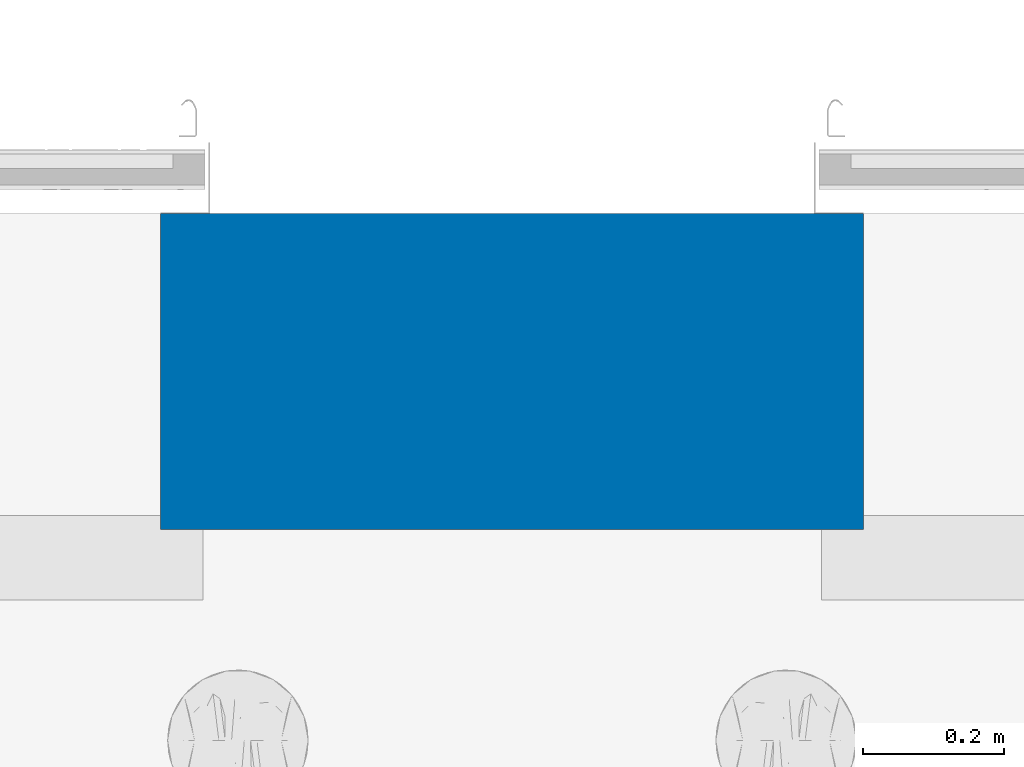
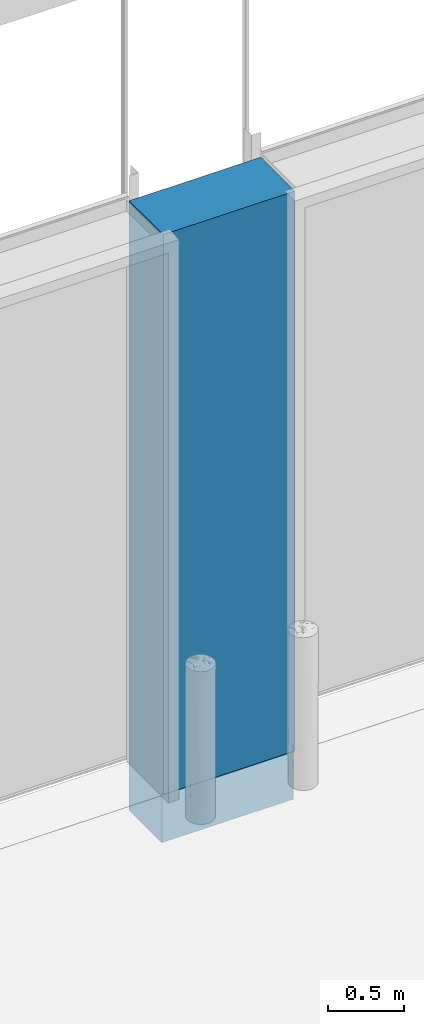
# One storey, part 54 of 77: 1 wall, 1 opening.
"""IFC2X3 building model written with IfcOpenShell, lengths in millimetres."""

import ifcopenshell
import ifcopenshell.guid

model = None  # the IFC model being written
_history = None  # IfcOwnerHistory: only IFC2X3 demands one
_inside = {}  # id of a spatial element -> (the spatial element, [elements in it])
_under = {}  # id of a project, library or spatial element -> (it, [spatial elements below it])
_declared = {}  # id of a project -> (the project, [libraries it declares])
_typed = {}  # id of a type object -> (the type object, [elements of that type])
_made_of = {}  # id of a material, layer set ... -> (it, [elements and type objects made of it])


def new_model(schema):
    """Start an empty IFC model of exactly this schema.

    Asked for "IFC4X3", IfcOpenShell would pick the latest addendum, in which some entities
    have other attributes; the version numbers below select the first issue.
    IFC2X3 requires an IfcOwnerHistory on every rooted entity: one is made here for all.
    """
    global model, _history
    if schema == "IFC4X3":
        model = ifcopenshell.file(schema_version=(4, 3, 0, 0))
    else:
        model = ifcopenshell.file(schema=schema)
    _inside.clear()
    _under.clear()
    _declared.clear()
    _typed.clear()
    _made_of.clear()
    _history = None
    if model.schema == "IFC2X3":
        org = make("IfcOrganization", Name="unknown")
        user = make(
            "IfcPersonAndOrganization",
            ThePerson=make("IfcPerson", FamilyName="unknown"),
            TheOrganization=org,
        )
        app = make(
            "IfcApplication",
            ApplicationDeveloper=org,
            Version="unknown",
            ApplicationFullName="unknown",
            ApplicationIdentifier="unknown",
        )
        _history = make(
            "IfcOwnerHistory",
            OwningUser=user,
            OwningApplication=app,
            ChangeAction="ADDED",
            CreationDate=0,
        )
    return model


def make(cls, **values):
    """One entity of the class cls with the attributes given. An attribute that is None is left unset."""
    return model.create_entity(
        cls, **{name: value for name, value in values.items() if value is not None}
    )


def entity(cls, *values):
    """Any entity or typed value of the class cls, its attributes in the order of the schema. None: left unset."""
    e = model.create_entity(cls)
    for i, value in enumerate(values):
        if value is not None:
            e[i] = value
    return e


def rooted(cls, **values):
    """An entity with a GlobalId (a new one), such as an element, a storey or a relation."""
    return make(cls, GlobalId=ifcopenshell.guid.new(), OwnerHistory=_history, **values)


def si_unit(unit_type, name, prefix=None):
    """IfcSIUnit, for example si_unit("LENGTHUNIT", "METRE", prefix="MILLI")."""
    return make("IfcSIUnit", UnitType=unit_type, Prefix=prefix, Name=name)


def converted_unit(unit_type, name, factor, base, dimensions=None, offset=None):
    """IfcConversionBasedUnit, such as the inch: factor (a typed value) times the base unit."""
    return make(
        "IfcConversionBasedUnit"
        if offset is None
        else "IfcConversionBasedUnitWithOffset",
        ConversionOffset=offset,
        Dimensions=None
        if dimensions is None
        else entity("IfcDimensionalExponents", *dimensions),
        UnitType=unit_type,
        Name=name,
        ConversionFactor=make(
            "IfcMeasureWithUnit", ValueComponent=factor, UnitComponent=base
        ),
    )


def derived_unit(unit_type, elements):
    """IfcDerivedUnit: a product of units, each with its exponent."""
    return make(
        "IfcDerivedUnit",
        Elements=[
            make("IfcDerivedUnitElement", Unit=unit, Exponent=power)
            for unit, power in elements
        ],
        UnitType=unit_type,
    )


def assignment(units):
    """IfcUnitAssignment: the units of a project."""
    return None if units is None else make("IfcUnitAssignment", Units=units)


def point(xyz):
    """IfcCartesianPoint."""
    return None if xyz is None else make("IfcCartesianPoint", Coordinates=xyz)


def direction(xyz):
    """IfcDirection."""
    return None if xyz is None else make("IfcDirection", DirectionRatios=xyz)


def frame(location, z_axis=None, x_axis=None):
    """IfcAxis2Placement3D, a coordinate frame: its origin and axes. An axis left out is left unset."""
    return make(
        "IfcAxis2Placement3D",
        Location=point(location),
        Axis=direction(z_axis),
        RefDirection=direction(x_axis),
    )


def frame_2d(location, x_axis=None):
    """IfcAxis2Placement2D, a coordinate frame in the plane: its origin and x axis."""
    return make(
        "IfcAxis2Placement2D", Location=point(location), RefDirection=direction(x_axis)
    )


def origin():
    """The frame at (0, 0, 0) with its axes left unset."""
    return frame((0.0, 0.0, 0.0))


def place(relative_to, where):
    """IfcLocalPlacement: puts the frame where relative to a parent placement (None: the world)."""
    return make(
        "IfcLocalPlacement", PlacementRelTo=relative_to, RelativePlacement=where
    )


def context(
    kind, dimensions, precision=None, world=None, true_north=None, identifier=None
):
    """IfcGeometricRepresentationContext, for example the 3D "Model" context."""
    return make(
        "IfcGeometricRepresentationContext",
        ContextIdentifier=identifier,
        ContextType=kind,
        CoordinateSpaceDimension=dimensions,
        Precision=precision,
        WorldCoordinateSystem=world,
        TrueNorth=true_north,
    )


def subcontext(parent, identifier, kind, view, scale=None):
    """IfcGeometricRepresentationSubContext, for example "Body" below "Model"."""
    return make(
        "IfcGeometricRepresentationSubContext",
        ContextIdentifier=identifier,
        ContextType=kind,
        ParentContext=parent,
        TargetScale=scale,
        TargetView=view,
    )


def project(units=None, contexts=None):
    """IfcProject with its units and contexts."""
    return rooted(
        "IfcProject",
        Name="project",
        RepresentationContexts=contexts,
        UnitsInContext=assignment(units),
    )


def spatial(cls, under=None, at=None, **own):
    """A site, building, storey or space (cls), placed at a placement, below another one or the project."""
    s = rooted(cls, ObjectPlacement=at, **own)
    if under is not None:
        _under.setdefault(under.id(), (under, []))[1].append(s)
    return s


def profile(cls, at=None, kind="AREA", **sizes):
    """A parametric profile (cls). Its sizes go by their IFC names, for example OverallWidth=200.0."""
    return make(cls, ProfileType=kind, Position=at, **sizes)


def rectangle(**sizes):
    """IfcRectangleProfileDef."""
    return profile("IfcRectangleProfileDef", **sizes)


def extrude(swept, where, along, depth):
    """IfcExtrudedAreaSolid: the profile swept, set in the frame where, extruded along a direction by depth."""
    return make(
        "IfcExtrudedAreaSolid",
        SweptArea=swept,
        Position=where,
        ExtrudedDirection=direction(along),
        Depth=depth,
    )


def faces_of(points, faces, orient=None, outer=None):
    """IfcFace entities. A face is a list of loops; a loop is a list of indices into points, from 0.

    orient and outer hold one flag for each loop. By default every Orientation is true, the
    first loop of a face is its IfcFaceOuterBound and the others are IfcFaceBound.
    """
    made = []
    for i, loops in enumerate(faces):
        bounds = []
        for j, loop in enumerate(loops):
            is_outer = j == 0 if outer is None else outer[i][j]
            bounds.append(
                make(
                    "IfcFaceOuterBound" if is_outer else "IfcFaceBound",
                    Bound=make("IfcPolyLoop", Polygon=[points[k] for k in loop]),
                    Orientation=True if orient is None else orient[i][j],
                )
            )
        made.append(make("IfcFace", Bounds=bounds))
    return made


def faceted_brep(points, faces, orient=None, outer=None, voids=None):
    """IfcFacetedBrep: a solid bounded by flat faces; with voids (closed shells), ...WithVoids."""
    shared = [point(p) for p in points]
    hull = make("IfcClosedShell", CfsFaces=faces_of(shared, faces, orient, outer))
    if voids is None:
        return make("IfcFacetedBrep", Outer=hull)
    return make(
        "IfcFacetedBrepWithVoids",
        Outer=hull,
        Voids=[
            make(cls, CfsFaces=faces_of(shared, fs, o, b)) for cls, fs, o, b in voids
        ],
    )


def shape(context_of_items, identifier, shape_type, items):
    """IfcShapeRepresentation: the items that make up one representation, for example the "Body"."""
    return make(
        "IfcShapeRepresentation",
        ContextOfItems=context_of_items,
        RepresentationIdentifier=identifier,
        RepresentationType=shape_type,
        Items=items,
    )


def material(Name=None, Category=None):
    """IfcMaterial."""
    return make("IfcMaterial", Name=Name, Category=Category)


def layer(
    of_material, thickness, ventilated=None, Name=None, Category=None, Priority=None
):
    """IfcMaterialLayer: one layer of a wall or slab, of a material (None: an air gap)."""
    return make(
        "IfcMaterialLayer",
        Material=of_material,
        LayerThickness=thickness,
        IsVentilated=ventilated,
        Name=Name,
        Category=Category,
        Priority=Priority,
    )


def layer_set(layers, Name=None):
    """IfcMaterialLayerSet."""
    return make("IfcMaterialLayerSet", MaterialLayers=layers, LayerSetName=Name)


def made_of(thing, what):
    """Note that an element or type object is made of a material, layer set ...; save() writes the relation."""
    if what is not None:
        _made_of.setdefault(what.id(), (what, []))[1].append(thing)
    return thing


def type_object(cls, material=None, **own):
    """A type object (cls), such as IfcWallType, which elements share."""
    return made_of(rooted(cls, **own), material)


def element(
    cls,
    number,
    at=None,
    inside=None,
    cuts=None,
    type_object=None,
    material=None,
    context=None,
    identifier="Body",
    shape_type=None,
    held_by="IfcProductDefinitionShape",
    body=None,
    shapes=None,
    **own,
):
    """One element of the class cls, such as IfcWall. Its Tag is "e" and its number.

    at: its placement. inside: the storey or other place that contains it. cuts: it is an
    opening in that element (IfcRelVoidsElement). A single representation is given by context,
    identifier, shape_type and body (its items); several are given by shapes. held_by: the class
    of the entity that holds the representations. save() writes the other relations.
    """
    e = rooted(cls, Tag="e%d" % number, ObjectPlacement=at, **own)
    if body is not None:
        shapes = [shape(context, identifier, shape_type, body)]
    if shapes is not None:
        e.Representation = make(held_by, Representations=shapes)
    if inside is not None:
        _inside.setdefault(inside.id(), (inside, []))[1].append(e)
    if cuts is not None:
        rooted(
            "IfcRelVoidsElement", RelatingBuildingElement=cuts, RelatedOpeningElement=e
        )
    if type_object is not None:
        _typed.setdefault(type_object.id(), (type_object, []))[1].append(e)
    return made_of(e, material)


def aggregate(whole, parts):
    """IfcRelAggregates: a whole, such as a stair, and the parts it consists of."""
    return rooted("IfcRelAggregates", RelatingObject=whole, RelatedObjects=parts)


def save(model, path):
    """Write the relations noted so far, then the file.

    IfcRelAggregates (storeys below a building ...), IfcRelContainedInSpatialStructure (elements
    in a storey), IfcRelDefinesByType, IfcRelAssociatesMaterial and IfcRelDeclares: one each for
    every whole, place, type object, material and project.
    """
    for whole, parts in _under.values():
        aggregate(whole, parts)
    for where, things in _inside.values():
        rooted(
            "IfcRelContainedInSpatialStructure",
            RelatedElements=things,
            RelatingStructure=where,
        )
    for kind, things in _typed.values():
        rooted("IfcRelDefinesByType", RelatedObjects=things, RelatingType=kind)
    for what, things in _made_of.values():
        rooted("IfcRelAssociatesMaterial", RelatedObjects=things, RelatingMaterial=what)
    for by, libraries in _declared.values():
        rooted("IfcRelDeclares", RelatingContext=by, RelatedDefinitions=libraries)
    model.write(path)


model = new_model("IFC2X3")

# Units and contexts
model_context = context("Model", 3, precision=0.01, world=origin(), true_north=direction((6.12303176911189e-17, 1.0)))
body_context = subcontext(model_context, "Body", "Model", "MODEL_VIEW")
ifc_project = project(units=[si_unit("LENGTHUNIT", "METRE", prefix="MILLI"), si_unit("AREAUNIT", "SQUARE_METRE"), si_unit("VOLUMEUNIT", "CUBIC_METRE"), converted_unit("PLANEANGLEUNIT", "DEGREE", entity("IfcRatioMeasure", 0.0174532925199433), si_unit("PLANEANGLEUNIT", "RADIAN"), dimensions=[0, 0, 0, 0, 0, 0, 0]), si_unit("MASSUNIT", "GRAM", prefix="KILO"), derived_unit("MASSDENSITYUNIT", [(si_unit("MASSUNIT", "GRAM", prefix="KILO"), 1), (si_unit("LENGTHUNIT", "METRE"), -3)]), si_unit("TIMEUNIT", "SECOND"), si_unit("FREQUENCYUNIT", "HERTZ"), si_unit("THERMODYNAMICTEMPERATUREUNIT", "DEGREE_CELSIUS"), derived_unit("THERMALTRANSMITTANCEUNIT", [(si_unit("MASSUNIT", "GRAM", prefix="KILO"), 1), (si_unit("THERMODYNAMICTEMPERATUREUNIT", "KELVIN"), -1), (si_unit("TIMEUNIT", "SECOND"), -3)]), derived_unit("VOLUMETRICFLOWRATEUNIT", [(si_unit("LENGTHUNIT", "METRE"), 3), (si_unit("TIMEUNIT", "SECOND"), -1)]), si_unit("ELECTRICCURRENTUNIT", "AMPERE"), si_unit("ELECTRICVOLTAGEUNIT", "VOLT"), si_unit("POWERUNIT", "WATT"), si_unit("FORCEUNIT", "NEWTON", prefix="KILO"), si_unit("ILLUMINANCEUNIT", "LUX"), si_unit("LUMINOUSFLUXUNIT", "LUMEN"), si_unit("LUMINOUSINTENSITYUNIT", "CANDELA"), derived_unit("USERDEFINED", [(si_unit("MASSUNIT", "GRAM", prefix="KILO"), -1), (si_unit("LENGTHUNIT", "METRE"), -2), (si_unit("TIMEUNIT", "SECOND"), 3), (si_unit("LUMINOUSFLUXUNIT", "LUMEN"), 1)]), derived_unit("LINEARVELOCITYUNIT", [(si_unit("LENGTHUNIT", "METRE"), 1), (si_unit("TIMEUNIT", "SECOND"), -1)]), si_unit("PRESSUREUNIT", "PASCAL"), derived_unit("USERDEFINED", [(si_unit("LENGTHUNIT", "METRE"), -2), (si_unit("MASSUNIT", "GRAM", prefix="KILO"), 1), (si_unit("TIMEUNIT", "SECOND"), -2)])], contexts=[model_context])

# Site, building, storey
site_placement = place(None, origin())
site = spatial("IfcSite", under=ifc_project, at=site_placement, Name="Default", CompositionType="ELEMENT")
building_placement = place(site_placement, origin())
building = spatial("IfcBuilding", under=site, at=building_placement, CompositionType="ELEMENT")
storey_placement = place(building_placement, origin())
storey = spatial("IfcBuildingStorey", under=building, at=storey_placement, Name="1. KORRUS", CompositionType="ELEMENT", Elevation=0.0)

# Wall, opening
ifc_material_1 = material(Name="RECKLI 1 173 THUR by Polantis 2016-tume")
ifc_layer_1 = layer(ifc_material_1, 100.0)
ifc_material_2 = material(Name="Soojusisolatsioon EPS")
ifc_layer_2 = layer(ifc_material_2, 200.0)
ifc_material_3 = material(Name="r/b")
ifc_layer_3 = layer(ifc_material_3, 150.0)
ifc_layer_set = layer_set([ifc_layer_1, ifc_layer_2, ifc_layer_3], Name="Basic Wall:VS-1-tume")
wall_type = type_object("IfcWallType", Name="Basic Wall:VS-1-tume", PredefinedType="NOTDEFINED", material=ifc_layer_set)
wall_placement = place(storey_placement, frame((20600.0316629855, -225.0, -400.0), z_axis=(0.0, 0.0, 1.0), x_axis=(-1.0, 0.0, 0.0)))
wall = element("IfcWall", 1, at=wall_placement, inside=storey, type_object=wall_type, Name="Basic Wall:VS-1-tume", ObjectType="Basic Wall:VS-1-tume", context=body_context, shape_type="Brep", body=[
    faceted_brep([(0.0, -225.0, 0.0), (1000.03166298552, -225.0, 0.0), (1000.03166298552, -225.0, 4900.0), (0.0316629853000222, -225.0, 4900.0), (0.0316629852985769, 225.0, 4900.0), (1000.03166298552, 225.0, 4900.0), (1000.03166298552, 225.0, 400.0), (0.00258473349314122, 225.0, 400.0), (0.0, 205.0, 0.0), (1000.03166298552, 205.0, 0.0), (1000.03166298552, 125.0, 4900.0), (0.0316629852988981, 125.0, 4900.0), (0.0, 225.0, 400.0), (0.0, 205.0, 400.0), (1000.03166298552, 205.0, 400.0)], [[[0, 1, 2, 3]], [[4, 5, 6, 7]], [[1, 0, 8, 9]], [[3, 2, 10, 11]], [[5, 4, 11, 10]], [[3, 11, 4, 12, 13, 8, 0]], [[14, 13, 7, 6]], [[13, 14, 9, 8]], [[10, 2, 1, 9, 14, 6, 5]]]),
])
opening_placement = place(wall_placement, frame((0.0316629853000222, 225.0, 400.0)))
element("IfcOpeningElement", 2, at=opening_placement, cuts=wall, Name="Crawford OH1042F-Without Passdoor:GU02:1", ObjectType="Opening", context=body_context, shape_type="SweptSolid", body=[
    extrude(rectangle(XDim=4499.99999999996, YDim=3600.0, at=frame_2d((2249.99999999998, 1800.0), x_axis=(1.0, 0.0))), frame((0.0, 0.0, 0.0), z_axis=(0.0, -1.0, 0.0), x_axis=(0.0, 0.0, 1.0)), (0.0, 0.0, 1.0), 450.0),
])

save(model, "model.ifc")
